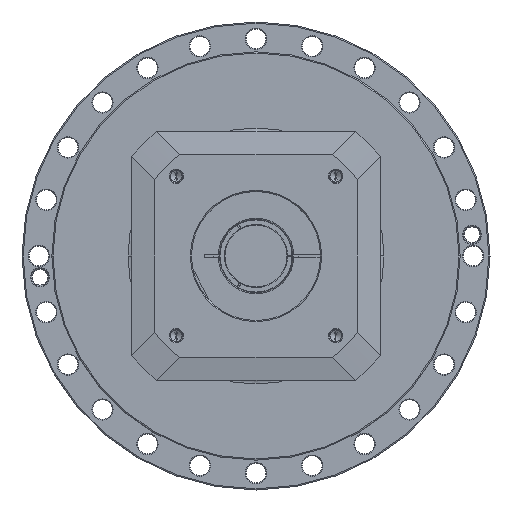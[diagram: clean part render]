
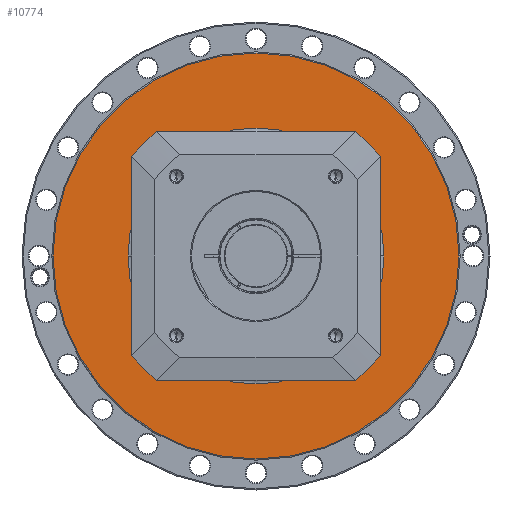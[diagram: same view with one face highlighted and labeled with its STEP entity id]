
A CAD part, left-side view. The second image highlights one B-rep face of the part: STEP entity #10774.
In plain terms, the highlighted planar face has unit normal (-1, 0, 0) as drawn and (1, 0, 0) by its records, which use the part's own axes.
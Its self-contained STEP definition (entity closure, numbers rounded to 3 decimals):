
#10427=CARTESIAN_POINT('',(-17.5,0.,0.));
#10428=DIRECTION('',(-1.,0.,0.));
#10429=DIRECTION('',(0.,-1.,0.));
#10430=AXIS2_PLACEMENT_3D('',#10427,#10428,#10429);
#10432=CARTESIAN_POINT('',(-17.5,0.,0.));
#10433=DIRECTION('',(-1.,0.,0.));
#10434=DIRECTION('',(0.,1.,0.));
#10435=AXIS2_PLACEMENT_3D('',#10432,#10433,#10434);
#10437=CARTESIAN_POINT('',(-17.5,0.,0.));
#10438=DIRECTION('',(-1.,0.,0.));
#10439=DIRECTION('',(0.,-1.,0.));
#10440=AXIS2_PLACEMENT_3D('',#10437,#10438,#10439);
#10442=CARTESIAN_POINT('',(-17.5,0.,0.));
#10443=DIRECTION('',(-1.,0.,0.));
#10444=DIRECTION('',(0.,1.,0.));
#10445=AXIS2_PLACEMENT_3D('',#10442,#10443,#10444);
#10605=CARTESIAN_POINT('',(-17.5,-180.,0.));
#10606=CARTESIAN_POINT('',(-17.5,180.,0.));
#10607=VERTEX_POINT('',#10605);
#10608=VERTEX_POINT('',#10606);
#10625=CARTESIAN_POINT('',(-17.5,-113.5,0.));
#10626=CARTESIAN_POINT('',(-17.5,113.5,0.));
#10627=VERTEX_POINT('',#10625);
#10628=VERTEX_POINT('',#10626);
#10759=CARTESIAN_POINT('',(-17.5,0.,0.));
#10760=DIRECTION('',(1.,0.,0.));
#10761=DIRECTION('',(0.,-1.,0.));
#10762=AXIS2_PLACEMENT_3D('',#10759,#10760,#10761);
#10763=PLANE('',#10762);
#10765=ORIENTED_EDGE('',*,*,#10764,.T.);
#10767=ORIENTED_EDGE('',*,*,#10766,.T.);
#10768=EDGE_LOOP('',(#10765,#10767));
#10769=FACE_OUTER_BOUND('',#10768,.F.);
#10770=ORIENTED_EDGE('',*,*,#10753,.F.);
#10771=ORIENTED_EDGE('',*,*,#10739,.F.);
#10772=EDGE_LOOP('',(#10770,#10771));
#10773=FACE_BOUND('',#10772,.F.);
#10774=ADVANCED_FACE('',(#10769,#10773),#10763,.T.);
#10431=CIRCLE('',#10430,113.5);
#10436=CIRCLE('',#10435,113.5);
#10441=CIRCLE('',#10440,180.);
#10446=CIRCLE('',#10445,180.);
#10739=EDGE_CURVE('',#10628,#10627,#10436,.T.);
#10753=EDGE_CURVE('',#10627,#10628,#10431,.T.);
#10764=EDGE_CURVE('',#10607,#10608,#10441,.T.);
#10766=EDGE_CURVE('',#10608,#10607,#10446,.T.);
